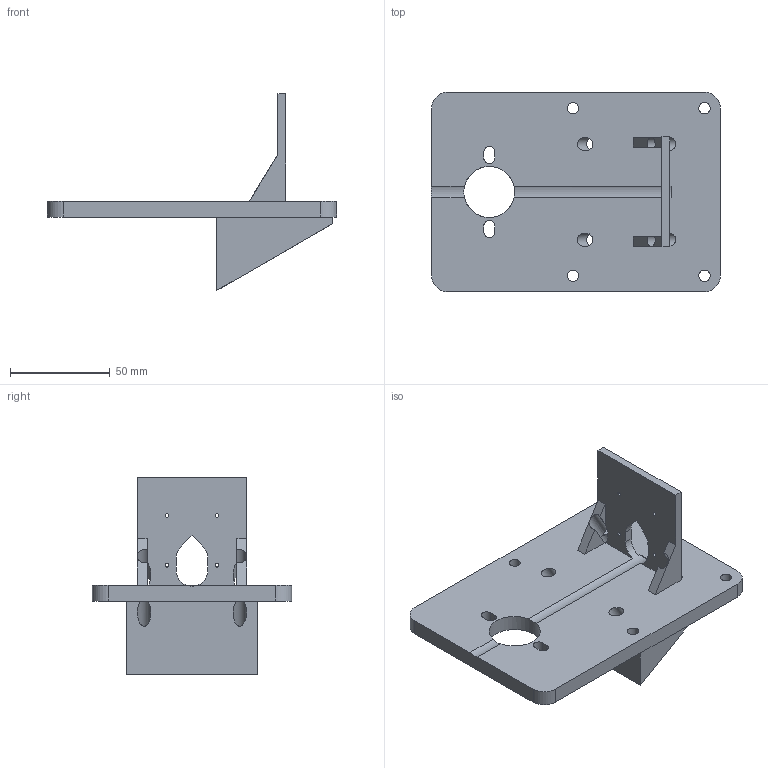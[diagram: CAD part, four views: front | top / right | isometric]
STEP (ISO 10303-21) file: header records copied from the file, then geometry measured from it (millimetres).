
FILE_DESCRIPTION(('FreeCAD Model'),'2;1');
FILE_NAME('Open CASCADE Shape Model','2026-11-17T13:39:15',('FreeCAD'),( 'FreeCAD'),'Open CASCADE STEP processor 7.8','FreeCAD','Unknown');
FILE_SCHEMA(('AUTOMOTIVE_DESIGN { 1 0 10303 214 1 1 1 1 }'));
Length unit declared in the file: millimetre
Products named in the file (1): Open CASCADE STEP translator 7.8 1
Bounding box: 145 x 100 x 98.74 mm (x, y, z)
Volume: 193924.7 mm3; surface area: 47342.3 mm2
Topology: 1 solids, 1 shells, 64 faces, 207 edges, 139 vertices
Faces by surface type: plane 35, cylinder 29
Full cylindrical faces by diameter (mm): 1.8 x4, 3.6 x4, 5.7 x4, 6.8 x4, 25.6 x1
Entity records: 2442 total; most frequent: CARTESIAN_POINT 455, DIRECTION 414, ORIENTED_EDGE 414, EDGE_CURVE 207, AXIS2_PLACEMENT_3D 146, VERTEX_POINT 139, LINE 122, VECTOR 122
